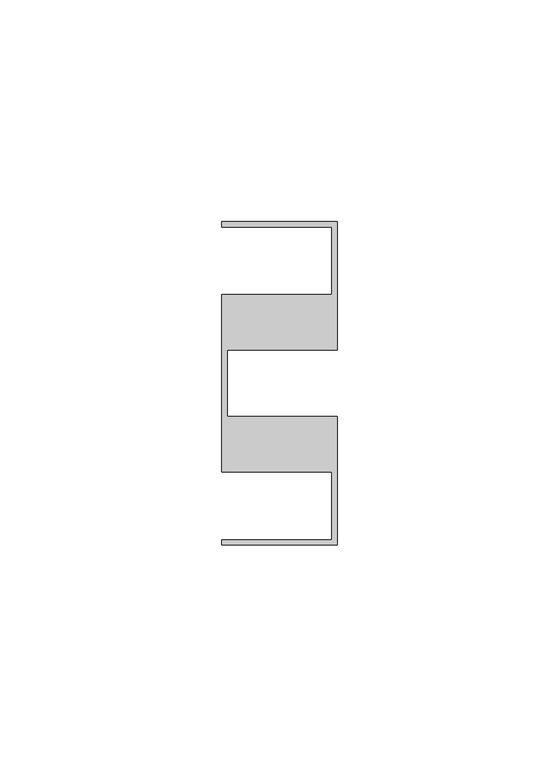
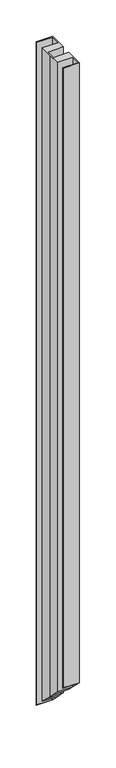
"""IFC4 building model written with IfcOpenShell, lengths in millimetres: member geometry, Прямоугольный импост : 10-AMG-2-Профиль 26Х73 Верх П."""

from ifc_helpers import new_model, si_unit, origin, place, context, project, spatial, faceted_brep, source, transform, mapped, element, save


def member_f5b8ed6c(model_context):
    return source(origin(), model_context, "Body", "Brep", [
        faceted_brep([(-26.0, 36.5, 0.0), (-26.0, 35.3, 0.0), (-1.2, 35.3, 0.0), (-1.2, 20.0, 0.0), (-26.0, 20.0, 0.0), (-26.0, 0.0, 0.0), (-26.0, -20.0, 0.0), (-1.2, -20.0, 0.0), (-1.2, -35.3116043, 0.0), (-26.0, -35.3116043, 0.0), (-26.0, -36.5, 0.0), (0.0, -36.5, 0.0), (0.0, -7.5116043, 0.0), (-24.8, -7.5116043, 0.0), (-24.8, 0.0, 0.0), (-24.8, 7.5116043, 0.0), (0.0, 7.5116043, 0.0), (0.0, 36.5, 0.0), (-26.0, 36.5, -1110.5), (-26.0, 35.3, -1109.3), (-1.2, 35.3, -1109.3), (-1.2, 20.0, -1094.0), (-26.0, 20.0, -1094.0), (-26.0, 0.0, -1074.0), (-26.0, -20.0, -1054.0), (-1.2, -20.0, -1054.0), (-1.2, -35.3116043, -1038.6883957), (-26.0, -35.3116043, -1038.6883957), (-26.0, -36.5, -1037.5), (0.0, -36.5, -1037.5), (0.0, -7.5116043, -1066.4883957), (-24.8, -7.5116043, -1066.4883957), (-24.8, 0.0, -1074.0), (-24.8, 7.5116043, -1081.5116043), (0.0, 7.5116043, -1081.5116043), (0.0, 36.5, -1110.5)], [[[0, 1, 2, 3, 4, 5, 6, 7, 8, 9, 10, 11, 12, 13, 14, 15, 16, 17]], [[1, 0, 18, 19]], [[2, 1, 19, 20]], [[3, 2, 20, 21]], [[4, 3, 21, 22]], [[5, 4, 22, 23]], [[6, 5, 23, 24]], [[7, 6, 24, 25]], [[8, 7, 25, 26]], [[9, 8, 26, 27]], [[10, 9, 27, 28]], [[11, 10, 28, 29]], [[12, 11, 29, 30]], [[13, 12, 30, 31]], [[14, 13, 31, 32]], [[15, 14, 32, 33]], [[16, 15, 33, 34]], [[17, 16, 34, 35]], [[0, 17, 35, 18]], [[18, 35, 34, 33, 32, 31, 30, 29, 28, 27, 26, 25, 24, 23, 22, 21, 20, 19]]]),
    ])


if __name__ == "__main__":
    model = new_model("IFC4")
    model_context = context("Model", 3, world=origin())
    ifc_project = project(units=[si_unit("LENGTHUNIT", "METRE", prefix="MILLI")], contexts=[model_context])
    site = spatial("IfcSite", under=ifc_project)
    building = spatial("IfcBuilding", under=site)
    placement = place(None, origin())
    member_shape = member_f5b8ed6c(model_context)
    element("IfcMember", 1, ObjectType="Прямоугольный импост : 10-AMG-2-Профиль 26Х73 Верх П", at=placement, inside=building, context=model_context, shape_type="MappedRepresentation", body=[
        mapped(member_shape, transform((0.0, 0.0, 0.0), x_axis=(1.0, 0.0, 0.0), y_axis=(0.0, 1.0, 0.0), z_axis=(0.0, 0.0, 1.0))),
    ])
    save(model, "model.ifc")
